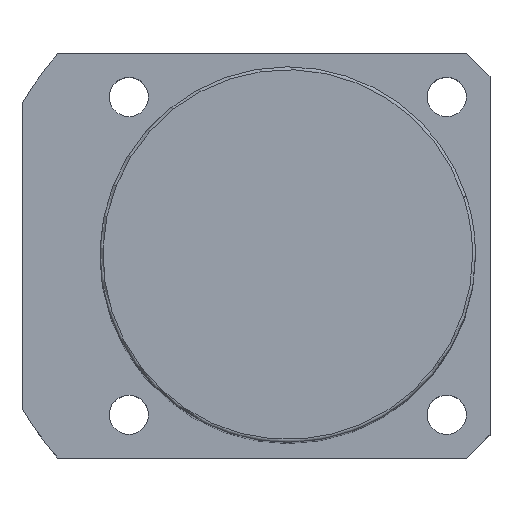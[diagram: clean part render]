
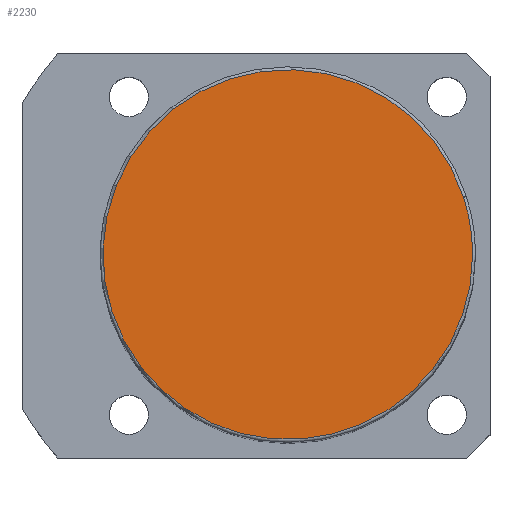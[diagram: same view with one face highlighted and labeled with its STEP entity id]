
A CAD part, top view. The second image highlights one B-rep face of the part: STEP entity #2230.
In plain terms, the highlighted planar face has unit normal (0, 0, 1).
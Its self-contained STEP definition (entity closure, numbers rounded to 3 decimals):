
#2196=CARTESIAN_POINT('',(32.0,0.0,141.0));
#2197=VERTEX_POINT('',#2196);
#2198=CARTESIAN_POINT('',(30.434,9.889,141.0));
#2199=VERTEX_POINT('',#2198);
#2200=CARTESIAN_POINT('',(0.0,0.0,141.0));
#2201=DIRECTION('',(0.0,0.0,1.0));
#2202=DIRECTION('',(1.0,0.0,0.0));
#2203=AXIS2_PLACEMENT_3D('',#2200,#2201,#2202);
#2204=CIRCLE('',#2203,32.0);
#2205=EDGE_CURVE('no 2102',#2197,#2199,#2204,.T.);
#2206=ORIENTED_EDGE('',*,*,#2205,.T.);
#2207=CARTESIAN_POINT('',(-30.434,-9.889,141.0));
#2208=VERTEX_POINT('',#2207);
#2209=CARTESIAN_POINT('',(0.0,0.0,141.0));
#2210=DIRECTION('',(0.0,0.0,1.0));
#2211=DIRECTION('',(1.0,0.0,0.0));
#2212=AXIS2_PLACEMENT_3D('',#2209,#2210,#2211);
#2213=CIRCLE('',#2212,32.0);
#2214=EDGE_CURVE('no 2108',#2199,#2208,#2213,.T.);
#2215=ORIENTED_EDGE('',*,*,#2214,.T.);
#2216=CARTESIAN_POINT('',(0.0,0.0,141.0));
#2217=DIRECTION('',(0.0,0.0,1.0));
#2218=DIRECTION('',(1.0,0.0,0.0));
#2219=AXIS2_PLACEMENT_3D('',#2216,#2217,#2218);
#2220=CIRCLE('',#2219,32.0);
#2221=EDGE_CURVE('no 2112',#2208,#2197,#2220,.T.);
#2222=ORIENTED_EDGE('',*,*,#2221,.T.);
#2223=EDGE_LOOP('',(#2206,#2215,#2222));
#2224=FACE_OUTER_BOUND('',#2223,.T.);
#2225=CARTESIAN_POINT('',(0.0,0.0,141.0));
#2226=DIRECTION('',(0.0,0.0,1.0));
#2227=DIRECTION('',(1.0,0.0,0.0));
#2228=AXIS2_PLACEMENT_3D('',#2225,#2226,#2227);
#2229=PLANE('',#2228);
#2230=ADVANCED_FACE('no 2093',(#2224),#2229,.T.);
